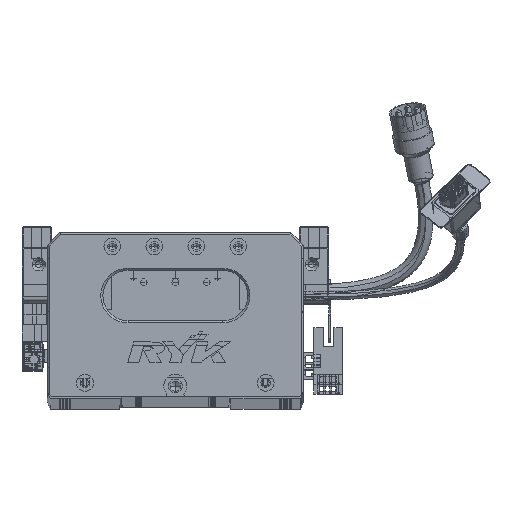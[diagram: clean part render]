
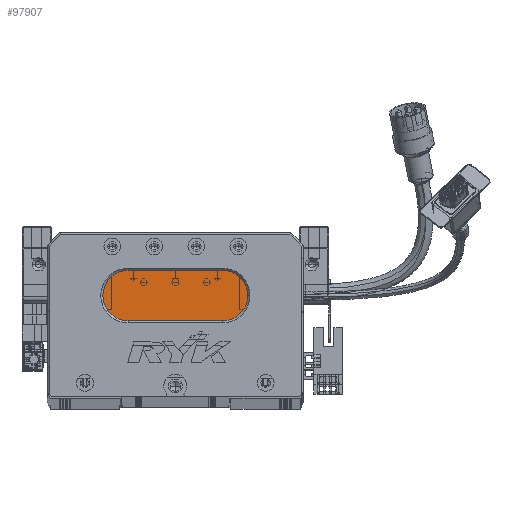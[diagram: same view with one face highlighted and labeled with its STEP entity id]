
A CAD part, top view. The second image highlights one B-rep face of the part: STEP entity #97907.
In plain terms, the highlighted planar face has unit normal (0, 0, 1) as drawn and (0, 0, -1) by its records, which use the part's own axes.
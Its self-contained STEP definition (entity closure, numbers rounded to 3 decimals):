
#5958 = CIRCLE ( 'NONE', #85220, 12. ) ;
#6796 = VERTEX_POINT ( 'NONE', #44902 ) ;
#12241 = CARTESIAN_POINT ( 'NONE',  ( 83.5, 48., 13. ) ) ;
#14346 = CARTESIAN_POINT ( 'NONE',  ( 38.5, 48., 13. ) ) ;
#19186 = ORIENTED_EDGE ( 'NONE', *, *, #52833, .T. ) ;
#19533 = EDGE_CURVE ( 'NONE', #6796, #33491, #5958, .T. ) ;
#22759 = DIRECTION ( 'NONE',  ( 0., 0., -1. ) ) ;
#32613 = DIRECTION ( 'NONE',  ( -1., 0., 0. ) ) ;
#33491 = VERTEX_POINT ( 'NONE', #75433 ) ;
#35582 = CARTESIAN_POINT ( 'NONE',  ( 38.5, 48., 13. ) ) ;
#39000 = EDGE_LOOP ( 'NONE', ( #48174, #19186, #120935, #129493, #104886 ) ) ;
#44902 = CARTESIAN_POINT ( 'NONE',  ( 83.5, 60., 13. ) ) ;
#48174 = ORIENTED_EDGE ( 'NONE', *, *, #19533, .T. ) ;
#48879 = AXIS2_PLACEMENT_3D ( 'NONE', #35582, #117358, #106304 ) ;
#49521 = CARTESIAN_POINT ( 'NONE',  ( 83.5, 36., 13. ) ) ;
#52833 = EDGE_CURVE ( 'NONE', #33491, #88674, #118834, .T. ) ;
#55333 = EDGE_CURVE ( 'NONE', #88674, #61439, #67654, .T. ) ;
#56206 = CARTESIAN_POINT ( 'NONE',  ( 83.5, 48., 13. ) ) ;
#57502 = CIRCLE ( 'NONE', #48879, 12. ) ;
#58639 = CARTESIAN_POINT ( 'NONE',  ( 26.5, 48., 13. ) ) ;
#61439 = VERTEX_POINT ( 'NONE', #58639 ) ;
#62638 = DIRECTION ( 'NONE',  ( 0., 0., -1. ) ) ;
#67654 = CIRCLE ( 'NONE', #121374, 12. ) ;
#69776 = CARTESIAN_POINT ( 'NONE',  ( 83.5, 60., 13. ) ) ;
#70287 = EDGE_CURVE ( 'NONE', #72512, #6796, #94013, .T. ) ;
#72512 = VERTEX_POINT ( 'NONE', #81051 ) ;
#75433 = CARTESIAN_POINT ( 'NONE',  ( 83.5, 36., 13. ) ) ;
#81051 = CARTESIAN_POINT ( 'NONE',  ( 38.5, 60., 13. ) ) ;
#81313 = VECTOR ( 'NONE', #118971, 1000. ) ;
#84356 = FACE_OUTER_BOUND ( 'NONE', #39000, .T. ) ;
#85220 = AXIS2_PLACEMENT_3D ( 'NONE', #12241, #62638, #32613 ) ;
#85652 = EDGE_CURVE ( 'NONE', #61439, #72512, #57502, .T. ) ;
#88674 = VERTEX_POINT ( 'NONE', #130571 ) ;
#94013 = LINE ( 'NONE', #69776, #81313 ) ;
#97907 = ADVANCED_FACE ( 'NONE', ( #84356 ), #116824, .T. ) ;
#100403 = DIRECTION ( 'NONE',  ( -1., 0., 0. ) ) ;
#103703 = DIRECTION ( 'NONE',  ( -1., 0., 0. ) ) ;
#104886 = ORIENTED_EDGE ( 'NONE', *, *, #70287, .T. ) ;
#106304 = DIRECTION ( 'NONE',  ( -1., 0., 0. ) ) ;
#106661 = AXIS2_PLACEMENT_3D ( 'NONE', #56206, #117270, #126985 ) ;
#116824 = PLANE ( 'NONE',  #106661 ) ;
#117163 = VECTOR ( 'NONE', #100403, 1000. ) ;
#117270 = DIRECTION ( 'NONE',  ( 0., 0., -1. ) ) ;
#117358 = DIRECTION ( 'NONE',  ( 0., 0., -1. ) ) ;
#118834 = LINE ( 'NONE', #49521, #117163 ) ;
#118971 = DIRECTION ( 'NONE',  ( 1., 0., 0. ) ) ;
#120935 = ORIENTED_EDGE ( 'NONE', *, *, #55333, .T. ) ;
#121374 = AXIS2_PLACEMENT_3D ( 'NONE', #14346, #22759, #103703 ) ;
#126985 = DIRECTION ( 'NONE',  ( -1., 0., 0. ) ) ;
#129493 = ORIENTED_EDGE ( 'NONE', *, *, #85652, .T. ) ;
#130571 = CARTESIAN_POINT ( 'NONE',  ( 38.5, 36., 13. ) ) ;
